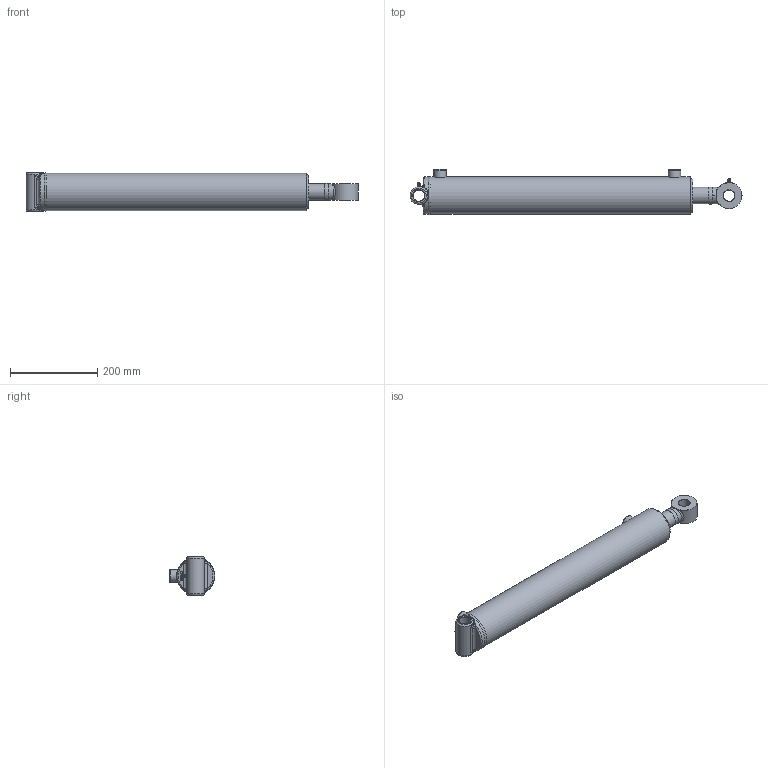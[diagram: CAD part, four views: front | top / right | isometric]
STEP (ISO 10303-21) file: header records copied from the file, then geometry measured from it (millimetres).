
FILE_DESCRIPTION(/* description */ ('Ø3.00 X 20.00 DA'),/* implementation_level */ '2;1');
FILE_NAME(/* name */ 'T:\Aces\Jobs\b7ea414322ed453eac76f2e6f290e2bf\result.stp',/* time_stamp */ '2023-03-20T13:05:49+00:00',/* author */ (''),/* organization */ ('PRINCE MANUFACTURING'),/* preprocessor_version */ 'ST-DEVELOPER v18.1',/* originating_system */ 'Autodesk Inventor 2022',/* authorisation */ '');
FILE_SCHEMA (('AUTOMOTIVE_DESIGN { 1 0 10303 214 3 1 1 }'));
Length unit declared in the file: inch
Products named in the file (21): PC3020015A00-280XTXS; 0615-XTSF000-23507; 0515-T-23507; 161500198; 200015603; 06Weld1_C360; 0715-P-100; 220000210; 0815-G-150; 230025104; 230025004; 240000022; 240061334; 240000334; 0208A-HAW2-25813XS; 0108A-HAW2-25813; 210400772; 02Weld_C360; 240020059; 250014150; 270010020
Assembly tree (22 placements, depth 3):
  PC3020015A00-280XTXS
    0615-XTSF000-23507
      0515-T-23507
      161500198
      200015603  x2
      06Weld1_C360
    0715-P-100
    220000210
    0815-G-150
    230025104
    230025004
    240000022
    240061334
    240000334
    0208A-HAW2-25813XS
      0108A-HAW2-25813
      210400772
      02Weld_C360
    240020059
    250014150
    270010020  x2
Bounding box: 761.24 x 104.04 x 88.9 mm (x, y, z)
Volume: 1936948.2 mm3; surface area: 538711.6 mm2
Topology: 26 solids, 26 shells, 564 faces, 1375 edges, 870 vertices
Faces by surface type: bspline 162, plane 135, torus 95, cylinder 84, cone 84, sphere 4
Full cylindrical faces by diameter (mm): 2.143 x4, 3.175 x1, 5.359 x2, 6.35 x2, 9.525 x2, 12.649 x1, 12.7 x1, 12.725 x1, 17.323 x2, 23.444 x1, 25.349 x1, 25.476 x1, 25.781 x1, 26.162 x1, 27.965 x1, 28.575 x2, 38.1 x1, 38.176 x2, 39.294 x2, 40.132 x1, 40.488 x1, 45.263 x1, 46.457 x1, 47.65 x1, 49.276 x2, 50.8 x2, 61.976 x1, 63.5 x2, 66.777 x2, 67.513 x2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
Entity records: 35069 total; most frequent: CARTESIAN_POINT 22422, ORIENTED_EDGE 2512, DIRECTION 2178, EDGE_CURVE 1256, AXIS2_PLACEMENT_3D 915, VERTEX_POINT 809, EDGE_LOOP 595, FACE_OUTER_BOUND 520
